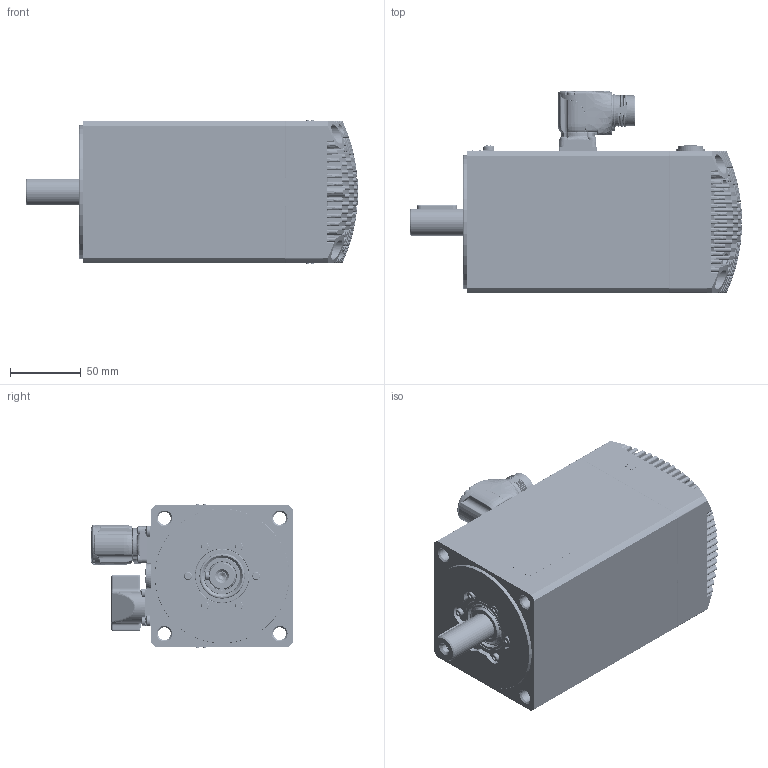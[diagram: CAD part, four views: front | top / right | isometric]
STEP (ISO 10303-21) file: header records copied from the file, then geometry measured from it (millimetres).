
FILE_DESCRIPTION((''),'2;1');
FILE_NAME('32190015748_ASM','2022-04-13T09:56:04',('gabrielec'),(''),'CREO PARAMETRIC BY PTC INC, 2021304','CREO PARAMETRIC BY PTC INC, 2021304','');
FILE_SCHEMA(('AP242_MANAGED_MODEL_BASED_3D_ENGINEERING_MIM_LF { 1 0 10303 442 1 1 4 }'));
Products named in the file (38): 52580N-0; 32149915564_ASM; 22320015080; 22320015080_ASM; 32050015015_ASM; 32060015581_ASM; 51941N-1; 32090015035_ASM; NRG_001; M3X16_GBT70-1; GB_T862_1; M4X8_GBT818_CU; 51093N-0; 32159915248_ASM; 22160015160; MENTOR-1292_9013; CEMBRE_FD9; CEMBRE_2053M16N; 32150015177_ASM; PHOENIX-1605586; 33000015098_AF19_ASM; UNI7687_M3X8_INOX; CORPO_3; 33200303857_AF13_ASM; 31500303857_AF9_ASM; 50941N-0; UNI7687_M3X6_INOX; UNI5931_M3X6_INOX; 22210015021; 32150015176_ASM; UNI5931_M4X16; LIP_SEAL_TW05; 22250015024; 22250015126; 43500000229; 43500000050; L_6X6-28_UNI6604; 32190015748_ASM
Assembly tree (65 placements, depth 7):
  32190015748_ASM
    32159915248_ASM
      32149915564_ASM
        52580N-0
      32090015035_ASM
        32060015581_ASM
          32050015015_ASM
            22320015080_ASM
              22320015080
        51941N-1
      NRG_001  x6
      M3X16_GBT70-1  x6
      GB_T862_1  x2
      M4X8_GBT818_CU  x2
      51093N-0
    32150015177_ASM
      22160015160
      MENTOR-1292_9013  x8
      CEMBRE_FD9
      CEMBRE_2053M16N
    33000015098_AF19_ASM
      PHOENIX-1605586
    UNI7687_M3X8_INOX  x4
    31500303857_AF9_ASM
      33200303857_AF13_ASM
        CORPO_3
    50941N-0  x2
    UNI7687_M3X6_INOX  x3
    UNI5931_M3X6_INOX
    32150015176_ASM
      22210015021
    UNI5931_M4X16  x4
    LIP_SEAL_TW05
    22250015024
    22250015126
    43500000229
    43500000050
    L_6X6-28_UNI6604
Bounding box: 234 x 142.41 x 100.8 mm (x, y, z)
Volume: 719203.6 mm3; surface area: 349196.9 mm2
Topology: 74 solids, 101 shells, 4637 faces, 11652 edges, 7389 vertices
Faces by surface type: plane 1600, cylinder 1133, cone 669, bspline 612, torus 358, sphere 243, revolution 11, extrusion 11
Entity records: 201089 total; most frequent: CARTESIAN_POINT 68314, ORIENTED_EDGE 20612, DIRECTION 18794, PRESENTATION_STYLE_ASSIGNMENT 10747, STYLED_ITEM 10388, EDGE_CURVE 10359, CURVE_STYLE 10315, AXIS2_PLACEMENT_3D 7303
